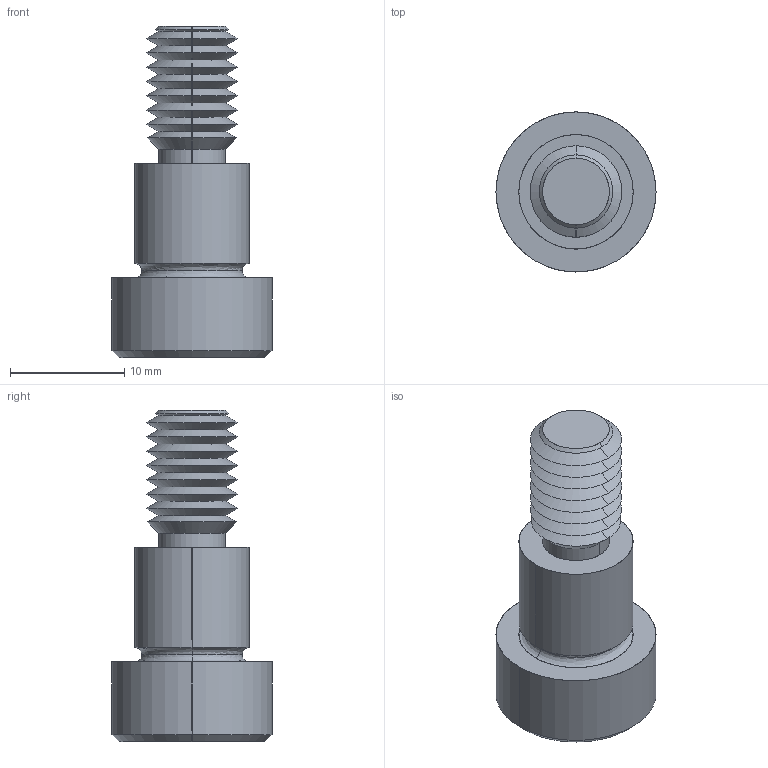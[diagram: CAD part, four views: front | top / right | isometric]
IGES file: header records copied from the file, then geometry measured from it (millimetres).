
Start section: SolidWorks IGES file using analytic representation for surfaces
Global section: file name: C:\Users\IanO\Documents\Temp Folder\GENERAL\SCREW REVISION\P0130_v2\P0130.T5_v2_20220106_IGES\P0130.100-010-T5.igs; native system: SolidWorks 2019; preprocessor: SolidWorks 2019; author: IanO; date: 220106.224051; units: millimetre
Bounding box: 14 x 14 x 29 mm (x, y, z)
Surface area: 1490.8 mm2 (no closed solid volume)
Topology: 0 solids, 0 shells, 72 faces, 548 edges, 546 vertices
Faces by surface type: revolution 52, bspline 20
